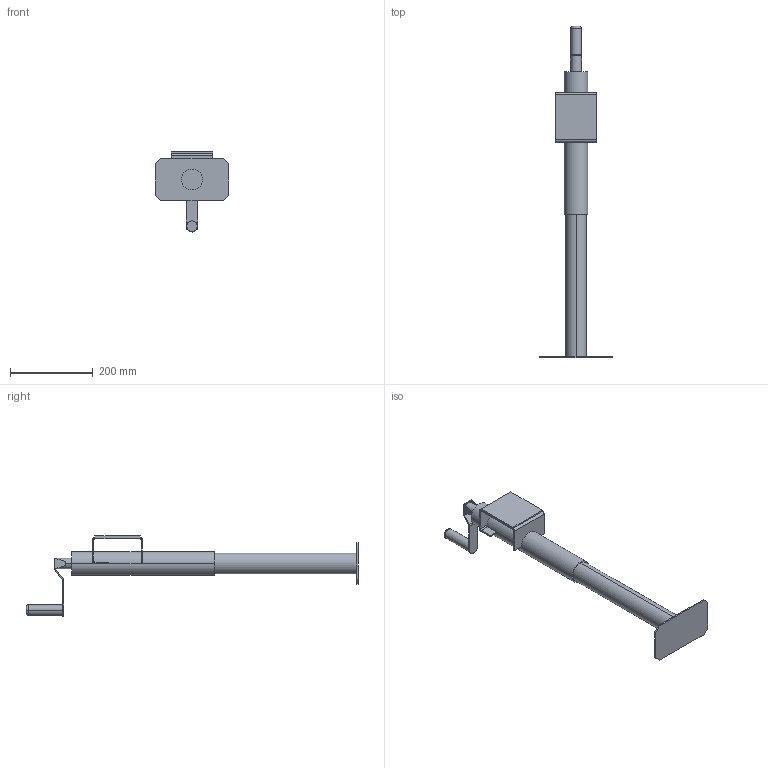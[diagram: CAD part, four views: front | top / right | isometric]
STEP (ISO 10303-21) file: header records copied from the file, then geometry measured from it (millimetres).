
FILE_DESCRIPTION (( 'STEP AP203' ), '1' );
FILE_NAME ('LM-xx-SP84036-2KLB.STEP', '2025-07-21T16:34:48', ( '' ), ( '' ), 'SwSTEP 2.0', 'SolidWorks 2020', '' );
FILE_SCHEMA (( 'CONFIG_CONTROL_DESIGN' ));
Length unit declared in the file: inch
Products named in the file (4): CM Jack Outer Casing; LM-xx-SP84036-2KLB; CM Swivel; CM Jack Inner Part
Assembly tree (3 placements, depth 2):
  LM-xx-SP84036-2KLB
    CM Jack Outer Casing
    CM Jack Inner Part
    CM Swivel
Bounding box: 177.8 x 804.43 x 193.99 mm (x, y, z)
Volume: 1126439.1 mm3; surface area: 285579.8 mm2
Topology: 3 solids, 3 shells, 98 faces, 222 edges, 135 vertices
Faces by surface type: plane 64, cylinder 30, torus 2, bspline 2
Entity records: 3307 total; most frequent: CARTESIAN_POINT 666, DIRECTION 483, ORIENTED_EDGE 444, EDGE_CURVE 222, AXIS2_PLACEMENT_3D 164, LINE 155, VECTOR 155, VERTEX_POINT 135
